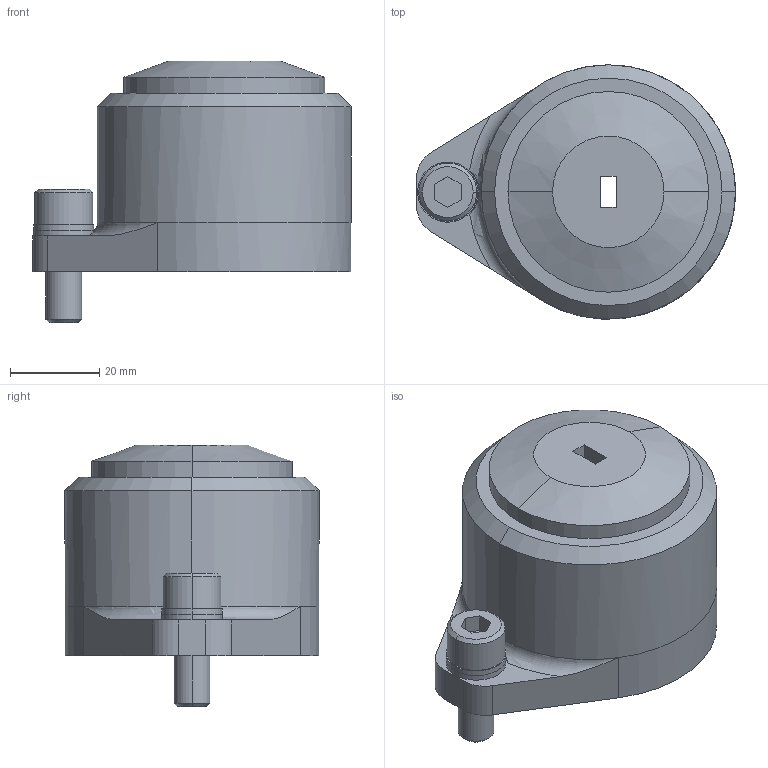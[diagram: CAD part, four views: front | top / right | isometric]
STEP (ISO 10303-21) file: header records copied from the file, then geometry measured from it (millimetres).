
FILE_DESCRIPTION(/* description */ (''),/* implementation_level */ '2;1');
FILE_NAME(/* name */ '3d_sprd20-g-p7.00-w3.50-k0_05418_r00.stp',/* time_stamp */ '2011-01-10T14:10:06+09:00',/* author */ ('MISUMI'),/* organization */ (''),/* preprocessor_version */ 'ST-DEVELOPER v11',/* originating_system */ 'UGS - NX 5.0',/* authorisation */ '');
FILE_SCHEMA (('CONFIG_CONTROL_DESIGN'));
Length unit declared in the file: millimetre
Products named in the file (1): 3d_sprd20-g-p7.00-w3.50-k0_05418_r00
Bounding box: 71.5 x 57 x 58.7 mm (x, y, z)
Volume: 98442.4 mm3; surface area: 38792.1 mm2
Topology: 6 solids, 6 shells, 76 faces, 170 edges, 110 vertices
Faces by surface type: cylinder 36, plane 30, cone 8, torus 2
Entity records: 2250 total; most frequent: DIRECTION 404, CARTESIAN_POINT 377, ORIENTED_EDGE 340, EDGE_CURVE 170, AXIS2_PLACEMENT_3D 161, VERTEX_POINT 110, EDGE_LOOP 92, CIRCLE 84
